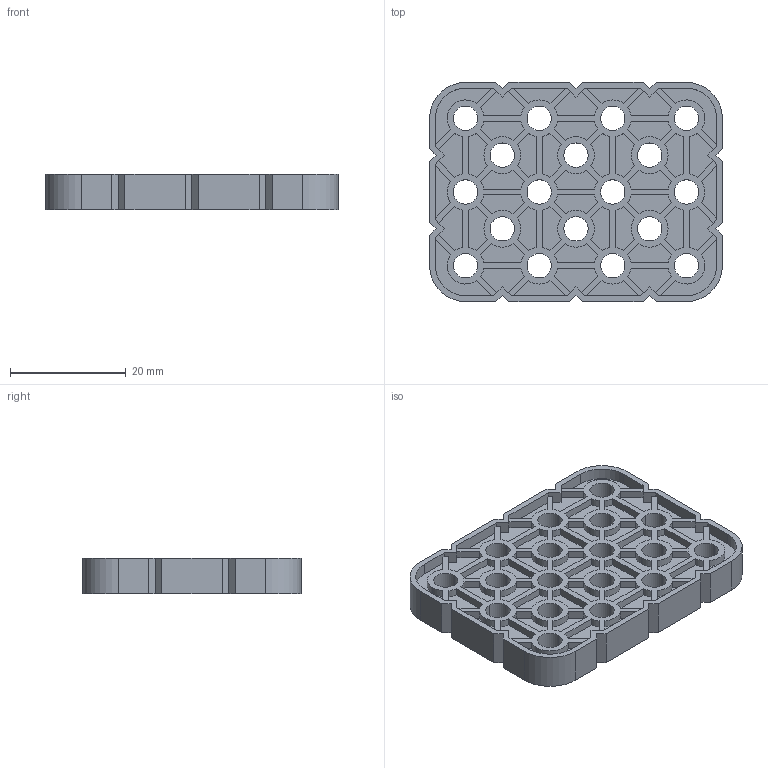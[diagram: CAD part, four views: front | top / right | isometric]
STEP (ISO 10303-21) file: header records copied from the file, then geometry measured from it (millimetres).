
FILE_DESCRIPTION (( 'STEP AP214' ), '1' );
FILE_NAME ('228-2500-032.STEP', '2021-02-18T19:40:29', ( '' ), ( '' ), 'SwSTEP 2.0', 'SolidWorks 2019', '' );
FILE_SCHEMA (( 'AUTOMOTIVE_DESIGN' ));
Length unit declared in the file: millimetre
Products named in the file (1): 228-2500-032
Bounding box: 50.5 x 37.8 x 6.1 mm (x, y, z)
Volume: 5408 mm3; surface area: 7984.6 mm2
Topology: 1 solids, 1 shells, 706 faces, 1962 edges, 1308 vertices
Faces by surface type: plane 438, cylinder 268
Entity records: 22748 total; most frequent: CARTESIAN_POINT 3977, ORIENTED_EDGE 3924, DIRECTION 3912, EDGE_CURVE 1962, LINE 1426, VECTOR 1426, VERTEX_POINT 1308, AXIS2_PLACEMENT_3D 1243
